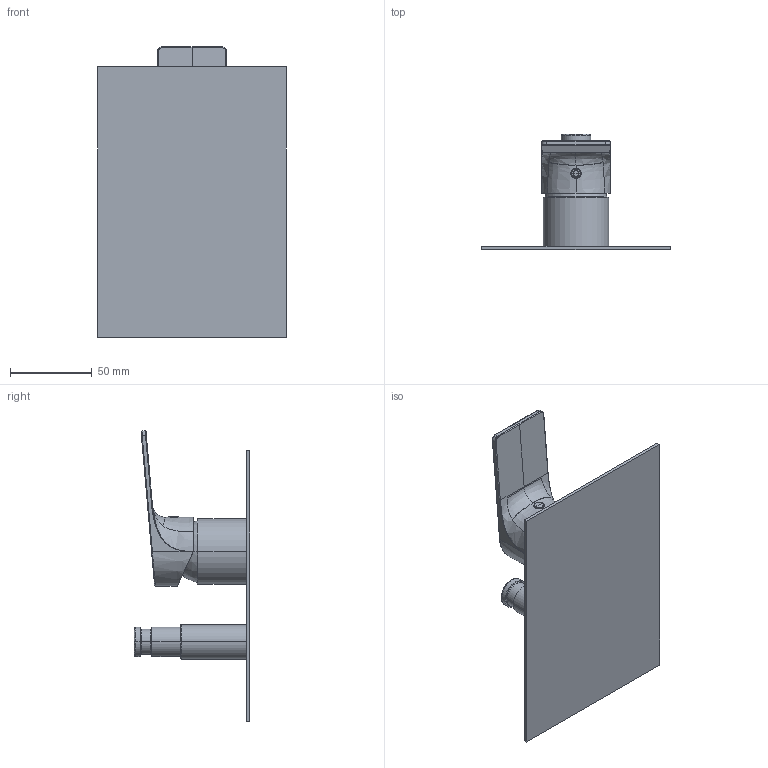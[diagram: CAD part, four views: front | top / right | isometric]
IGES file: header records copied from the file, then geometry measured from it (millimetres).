
Start section:  PTC IGES file: 78010_sw0001.igs
Global section: file name: 78010_sw0001.igs; native system: Creo Parametric by PTC Inc.; preprocessor: 2018100; author: volponeff; organization: Unknown; date: 20200521.100326; units: millimetre
Bounding box: 115 x 70.6 x 177.29 mm (x, y, z)
Surface area: 67381.9 mm2 (no closed solid volume)
Topology: 0 solids, 0 shells, 254 faces, 1198 edges, 1194 vertices
Faces by surface type: revolution 155, bspline 97, extrusion 2
